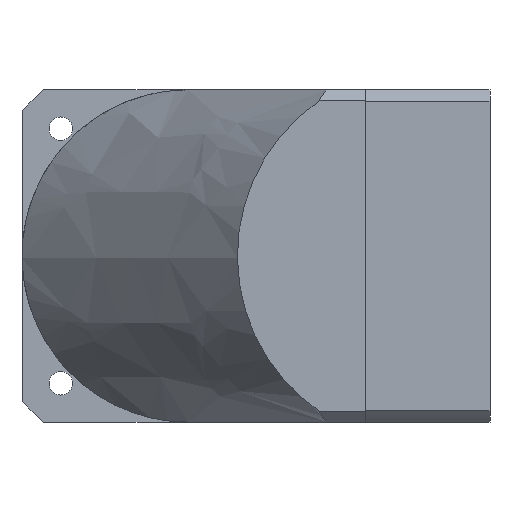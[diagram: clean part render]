
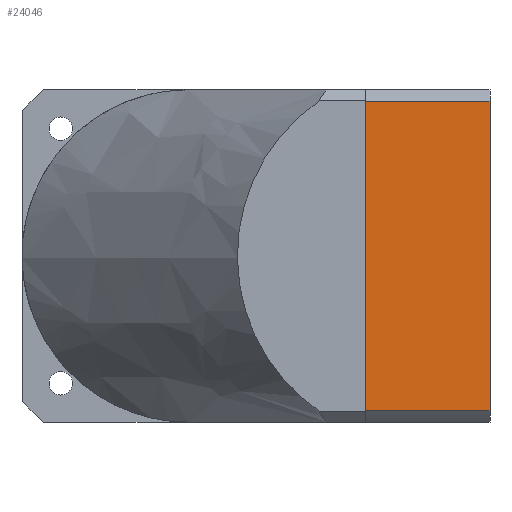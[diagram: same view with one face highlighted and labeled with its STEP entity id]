
A CAD part, front view. The second image highlights one B-rep face of the part: STEP entity #24046.
In plain terms, the highlighted planar face has unit normal (0, -1, 0).
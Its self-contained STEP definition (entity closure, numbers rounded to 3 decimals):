
#586 = CARTESIAN_POINT ( 'NONE',  ( 55.893, -60., -45. ) ) ;
#5251 = DIRECTION ( 'NONE',  ( 0., 0., -1. ) ) ;
#6319 = VERTEX_POINT ( 'NONE', #47493 ) ;
#8592 = DIRECTION ( 'NONE',  ( 0., 0., 1. ) ) ;
#9623 = EDGE_LOOP ( 'NONE', ( #16965, #10503, #19774, #36688 ) ) ;
#10503 = ORIENTED_EDGE ( 'NONE', *, *, #14475, .T. ) ;
#11468 = VECTOR ( 'NONE', #48885, 1000. ) ;
#11943 = DIRECTION ( 'NONE',  ( -1., 0., 0. ) ) ;
#12664 = CARTESIAN_POINT ( 'NONE',  ( 55.893, -60., -45. ) ) ;
#14475 = EDGE_CURVE ( 'NONE', #39832, #44308, #38641, .T. ) ;
#14807 = AXIS2_PLACEMENT_3D ( 'NONE', #49733, #29546, #5251 ) ;
#15287 = VERTEX_POINT ( 'NONE', #48831 ) ;
#16965 = ORIENTED_EDGE ( 'NONE', *, *, #45407, .F. ) ;
#17552 = FACE_OUTER_BOUND ( 'NONE', #9623, .T. ) ;
#19774 = ORIENTED_EDGE ( 'NONE', *, *, #21909, .T. ) ;
#20526 = CARTESIAN_POINT ( 'NONE',  ( -55.893, -60., 0. ) ) ;
#21909 = EDGE_CURVE ( 'NONE', #44308, #6319, #46931, .T. ) ;
#23555 = LINE ( 'NONE', #20526, #11468 ) ;
#23933 = CARTESIAN_POINT ( 'NONE',  ( -55.893, -60., -45. ) ) ;
#24046 = ADVANCED_FACE ( 'NONE', ( #17552 ), #25457, .T. ) ;
#25457 = PLANE ( 'NONE',  #14807 ) ;
#26618 = VECTOR ( 'NONE', #8592, 1000. ) ;
#27802 = VECTOR ( 'NONE', #50158, 1000. ) ;
#29546 = DIRECTION ( 'NONE',  ( 0., -1., 0. ) ) ;
#29823 = EDGE_CURVE ( 'NONE', #6319, #15287, #31210, .T. ) ;
#29971 = CARTESIAN_POINT ( 'NONE',  ( -60., -60., -45. ) ) ;
#31210 = LINE ( 'NONE', #40341, #39445 ) ;
#36688 = ORIENTED_EDGE ( 'NONE', *, *, #29823, .T. ) ;
#38641 = LINE ( 'NONE', #29971, #27802 ) ;
#39445 = VECTOR ( 'NONE', #11943, 1000. ) ;
#39832 = VERTEX_POINT ( 'NONE', #23933 ) ;
#40341 = CARTESIAN_POINT ( 'NONE',  ( 0., -60., 0. ) ) ;
#44308 = VERTEX_POINT ( 'NONE', #586 ) ;
#45407 = EDGE_CURVE ( 'NONE', #39832, #15287, #23555, .T. ) ;
#46931 = LINE ( 'NONE', #12664, #26618 ) ;
#47493 = CARTESIAN_POINT ( 'NONE',  ( 55.893, -60., 0. ) ) ;
#48831 = CARTESIAN_POINT ( 'NONE',  ( -55.893, -60., 0. ) ) ;
#48885 = DIRECTION ( 'NONE',  ( 0., 0., 1. ) ) ;
#49733 = CARTESIAN_POINT ( 'NONE',  ( -60., -60., -45. ) ) ;
#50158 = DIRECTION ( 'NONE',  ( 1., 0., 0. ) ) ;
